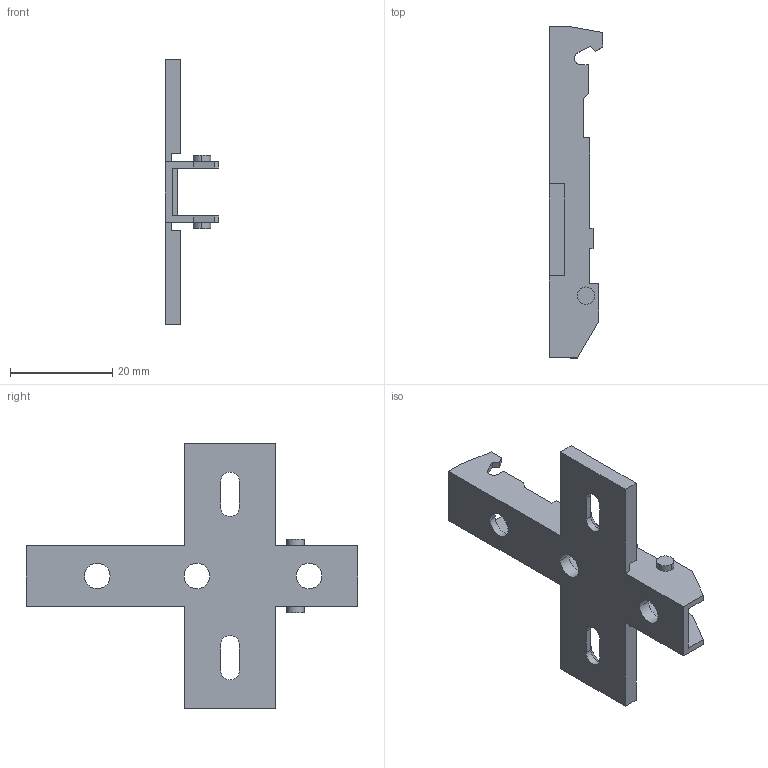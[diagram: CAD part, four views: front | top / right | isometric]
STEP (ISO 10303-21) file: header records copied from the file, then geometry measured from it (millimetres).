
FILE_DESCRIPTION (( 'STEP AP214' ), '1' );
FILE_NAME ('Eco Kreuzmontageplatte LR37_32_Spax_H00.step', '2010-11-18T10:05:38', ( 'grass' ), ( '' ), 'SwSTEP 2.0', 'SolidWorks 2010', '' );
FILE_SCHEMA (( 'AUTOMOTIVE_DESIGN' ));
Length unit declared in the file: millimetre
Products named in the file (1): Eco Kreuzmontageplatte LR37_32_Spax_H00
Bounding box: 10.5 x 65 x 52 mm (x, y, z)
Volume: 4105.1 mm3; surface area: 5251.6 mm2
Topology: 1 solids, 1 shells, 94 faces, 260 edges, 170 vertices
Faces by surface type: plane 70, cylinder 18, cone 6
Entity records: 3020 total; most frequent: CARTESIAN_POINT 525, ORIENTED_EDGE 520, DIRECTION 492, EDGE_CURVE 260, VECTOR 218, LINE 218, VERTEX_POINT 170, AXIS2_PLACEMENT_3D 137
